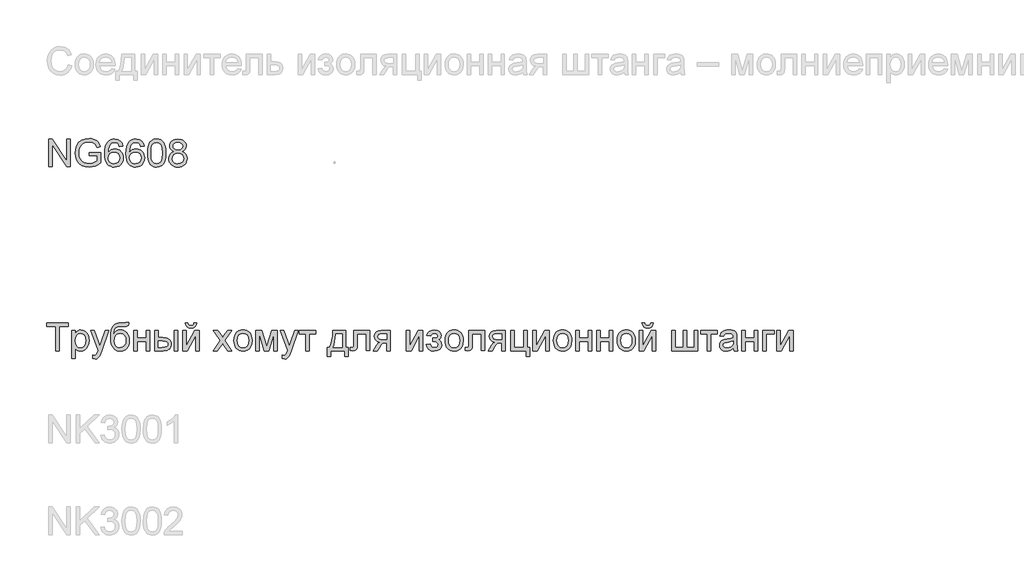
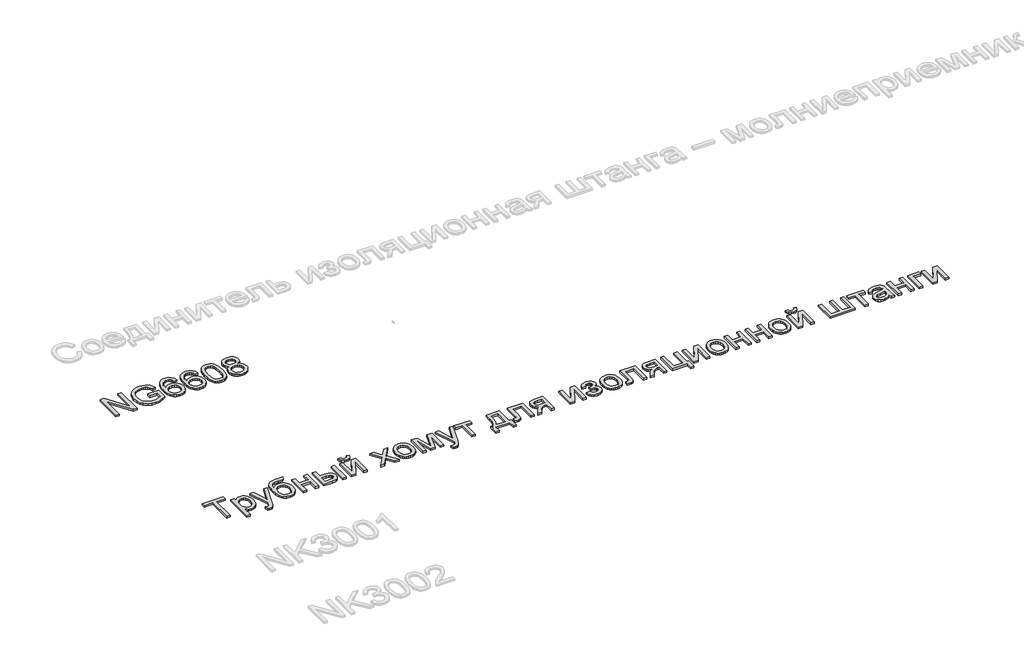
# One storey, part 20 of 124: 2 proxies.
"""IFC4 building model written with IfcOpenShell, lengths in millimetres."""

import ifcopenshell
import ifcopenshell.guid

model = None  # the IFC model being written
_history = None  # IfcOwnerHistory: only IFC2X3 demands one
_inside = {}  # id of a spatial element -> (the spatial element, [elements in it])
_under = {}  # id of a project, library or spatial element -> (it, [spatial elements below it])
_declared = {}  # id of a project -> (the project, [libraries it declares])
_typed = {}  # id of a type object -> (the type object, [elements of that type])
_made_of = {}  # id of a material, layer set ... -> (it, [elements and type objects made of it])


def new_model(schema):
    """Start an empty IFC model of exactly this schema.

    Asked for "IFC4X3", IfcOpenShell would pick the latest addendum, in which some entities
    have other attributes; the version numbers below select the first issue.
    IFC2X3 requires an IfcOwnerHistory on every rooted entity: one is made here for all.
    """
    global model, _history
    if schema == "IFC4X3":
        model = ifcopenshell.file(schema_version=(4, 3, 0, 0))
    else:
        model = ifcopenshell.file(schema=schema)
    _inside.clear()
    _under.clear()
    _declared.clear()
    _typed.clear()
    _made_of.clear()
    _history = None
    if model.schema == "IFC2X3":
        org = make("IfcOrganization", Name="unknown")
        user = make(
            "IfcPersonAndOrganization",
            ThePerson=make("IfcPerson", FamilyName="unknown"),
            TheOrganization=org,
        )
        app = make(
            "IfcApplication",
            ApplicationDeveloper=org,
            Version="unknown",
            ApplicationFullName="unknown",
            ApplicationIdentifier="unknown",
        )
        _history = make(
            "IfcOwnerHistory",
            OwningUser=user,
            OwningApplication=app,
            ChangeAction="ADDED",
            CreationDate=0,
        )
    return model


def make(cls, **values):
    """One entity of the class cls with the attributes given. An attribute that is None is left unset."""
    return model.create_entity(
        cls, **{name: value for name, value in values.items() if value is not None}
    )


def rooted(cls, **values):
    """An entity with a GlobalId (a new one), such as an element, a storey or a relation."""
    return make(cls, GlobalId=ifcopenshell.guid.new(), OwnerHistory=_history, **values)


def si_unit(unit_type, name, prefix=None):
    """IfcSIUnit, for example si_unit("LENGTHUNIT", "METRE", prefix="MILLI")."""
    return make("IfcSIUnit", UnitType=unit_type, Prefix=prefix, Name=name)


def assignment(units):
    """IfcUnitAssignment: the units of a project."""
    return None if units is None else make("IfcUnitAssignment", Units=units)


def point(xyz):
    """IfcCartesianPoint."""
    return None if xyz is None else make("IfcCartesianPoint", Coordinates=xyz)


def direction(xyz):
    """IfcDirection."""
    return None if xyz is None else make("IfcDirection", DirectionRatios=xyz)


def frame(location, z_axis=None, x_axis=None):
    """IfcAxis2Placement3D, a coordinate frame: its origin and axes. An axis left out is left unset."""
    return make(
        "IfcAxis2Placement3D",
        Location=point(location),
        Axis=direction(z_axis),
        RefDirection=direction(x_axis),
    )


def origin():
    """The frame at (0, 0, 0) with its axes left unset."""
    return frame((0.0, 0.0, 0.0))


def origin_with_axes():
    """The frame at (0, 0, 0) with the z axis (0, 0, 1) and the x axis (1, 0, 0) written out."""
    return frame((0.0, 0.0, 0.0), z_axis=(0.0, 0.0, 1.0), x_axis=(1.0, 0.0, 0.0))


def place(relative_to, where):
    """IfcLocalPlacement: puts the frame where relative to a parent placement (None: the world)."""
    return make(
        "IfcLocalPlacement", PlacementRelTo=relative_to, RelativePlacement=where
    )


def context(
    kind, dimensions, precision=None, world=None, true_north=None, identifier=None
):
    """IfcGeometricRepresentationContext, for example the 3D "Model" context."""
    return make(
        "IfcGeometricRepresentationContext",
        ContextIdentifier=identifier,
        ContextType=kind,
        CoordinateSpaceDimension=dimensions,
        Precision=precision,
        WorldCoordinateSystem=world,
        TrueNorth=true_north,
    )


def project(units=None, contexts=None):
    """IfcProject with its units and contexts."""
    return rooted(
        "IfcProject",
        Name="project",
        RepresentationContexts=contexts,
        UnitsInContext=assignment(units),
    )


def spatial(cls, under=None, at=None, **own):
    """A site, building, storey or space (cls), placed at a placement, below another one or the project."""
    s = rooted(cls, ObjectPlacement=at, **own)
    if under is not None:
        _under.setdefault(under.id(), (under, []))[1].append(s)
    return s


def polyline(points):
    """IfcPolyline through the points."""
    return make("IfcPolyline", Points=[point(p) for p in points])


def outline(outer, holes=None, kind="AREA"):
    """IfcArbitraryClosedProfileDef: a profile drawn as a closed curve; with holes, ...WithVoids."""
    if holes is None:
        return make("IfcArbitraryClosedProfileDef", ProfileType=kind, OuterCurve=outer)
    return make(
        "IfcArbitraryProfileDefWithVoids",
        ProfileType=kind,
        OuterCurve=outer,
        InnerCurves=holes,
    )


def extrude(swept, where, along, depth):
    """IfcExtrudedAreaSolid: the profile swept, set in the frame where, extruded along a direction by depth."""
    return make(
        "IfcExtrudedAreaSolid",
        SweptArea=swept,
        Position=where,
        ExtrudedDirection=direction(along),
        Depth=depth,
    )


def shape(context_of_items, identifier, shape_type, items):
    """IfcShapeRepresentation: the items that make up one representation, for example the "Body"."""
    return make(
        "IfcShapeRepresentation",
        ContextOfItems=context_of_items,
        RepresentationIdentifier=identifier,
        RepresentationType=shape_type,
        Items=items,
    )


def made_of(thing, what):
    """Note that an element or type object is made of a material, layer set ...; save() writes the relation."""
    if what is not None:
        _made_of.setdefault(what.id(), (what, []))[1].append(thing)
    return thing


def element(
    cls,
    number,
    at=None,
    inside=None,
    cuts=None,
    type_object=None,
    material=None,
    context=None,
    identifier="Body",
    shape_type=None,
    held_by="IfcProductDefinitionShape",
    body=None,
    shapes=None,
    **own,
):
    """One element of the class cls, such as IfcWall. Its Tag is "e" and its number.

    at: its placement. inside: the storey or other place that contains it. cuts: it is an
    opening in that element (IfcRelVoidsElement). A single representation is given by context,
    identifier, shape_type and body (its items); several are given by shapes. held_by: the class
    of the entity that holds the representations. save() writes the other relations.
    """
    e = rooted(cls, Tag="e%d" % number, ObjectPlacement=at, **own)
    if body is not None:
        shapes = [shape(context, identifier, shape_type, body)]
    if shapes is not None:
        e.Representation = make(held_by, Representations=shapes)
    if inside is not None:
        _inside.setdefault(inside.id(), (inside, []))[1].append(e)
    if cuts is not None:
        rooted(
            "IfcRelVoidsElement", RelatingBuildingElement=cuts, RelatedOpeningElement=e
        )
    if type_object is not None:
        _typed.setdefault(type_object.id(), (type_object, []))[1].append(e)
    return made_of(e, material)


def aggregate(whole, parts):
    """IfcRelAggregates: a whole, such as a stair, and the parts it consists of."""
    return rooted("IfcRelAggregates", RelatingObject=whole, RelatedObjects=parts)


def save(model, path):
    """Write the relations noted so far, then the file.

    IfcRelAggregates (storeys below a building ...), IfcRelContainedInSpatialStructure (elements
    in a storey), IfcRelDefinesByType, IfcRelAssociatesMaterial and IfcRelDeclares: one each for
    every whole, place, type object, material and project.
    """
    for whole, parts in _under.values():
        aggregate(whole, parts)
    for where, things in _inside.values():
        rooted(
            "IfcRelContainedInSpatialStructure",
            RelatedElements=things,
            RelatingStructure=where,
        )
    for kind, things in _typed.values():
        rooted("IfcRelDefinesByType", RelatedObjects=things, RelatingType=kind)
    for what, things in _made_of.values():
        rooted("IfcRelAssociatesMaterial", RelatedObjects=things, RelatingMaterial=what)
    for by, libraries in _declared.values():
        rooted("IfcRelDeclares", RelatingContext=by, RelatedDefinitions=libraries)
    model.write(path)


model = new_model("IFC4")

# Units and contexts
model_context = context("Model", 3, world=origin())
ifc_project = project(units=[si_unit("LENGTHUNIT", "METRE", prefix="MILLI")], contexts=[model_context])

# Site, building, storey
site = spatial("IfcSite", under=ifc_project)
building = spatial("IfcBuilding", under=site)
storey = spatial("IfcBuildingStorey", under=building, Name="Этаж 01", Elevation=0.0)

# Proxies
placement = place(None, origin())
element("IfcBuildingElementProxy", 1, Name="300", ObjectType="300", at=placement, inside=storey, context=model_context, shape_type="SweptSolid", body=[
    extrude(outline(polyline([(25399.8220677, -107548.8731539), (25399.8220677, -107247.5042234), (25440.1419344, -107247.5042234), (25597.5954283, -107486.2596383), (25597.5954283, -107247.5042234), (25635.2665446, -107247.5042234), (25635.2665446, -107548.8731539), (25594.9466779, -107548.8731539), (25437.493184, -107310.0441626), (25437.493184, -107548.8731539), (25399.8220677, -107548.8731539)])), origin_with_axes(), (0.0, 0.0, 1.0), 20.0),
    extrude(outline(polyline([(25842.4576843, -107431.1509154), (25842.4576843, -107393.4797991), (25964.8888123, -107393.4797991), (25964.8888123, -107506.125266), (25935.1363559, -107526.8186283), (25904.4458005, -107541.6626668), (25872.8907223, -107550.6021993), (25840.5446979, -107553.5820434), (25798.2842537, -107548.8455627), (25760.0889056, -107534.6361207), (25728.3590835, -107511.4503579), (25705.4952175, -107479.7849152), (25691.6720515, -107441.8010992), (25687.0643295, -107399.6602166), (25691.6536574, -107357.2158314), (25705.4216411, -107317.7328963), (25727.7980634, -107284.6143197), (25758.2127074, -107261.2630101), (25795.2584243, -107247.4122529), (25837.5280656, -107242.7953339), (25868.5589118, -107245.4716754), (25896.4627612, -107253.5007), (25919.9612236, -107266.3029934), (25937.7759092, -107283.2991416), (25950.9552817, -107305.3076819), (25960.5478047, -107333.1471519), (25925.8197444, -107342.932813), (25918.0666313, -107323.0763823), (25908.6396552, -107308.094388), (25896.1684556, -107296.8004108), (25879.282672, -107288.0080311), (25859.1503298, -107282.3518454), (25836.9394544, -107280.4664502), (25810.9393944, -107282.4989982), (25788.7101248, -107288.5966423), (25770.3344191, -107297.9960273), (25755.8950508, -107309.933798), (25736.5076697, -107338.9596874), (25727.6785018, -107367.3969657), (25724.7354458, -107398.1151123), (25728.27631, -107434.1399566), (25738.8989026, -107463.7820484), (25756.2813269, -107486.8298554), (25780.1016861, -107503.0718455), (25807.9779443, -107512.7011567), (25837.5280656, -107515.9109271), (25863.6200961, -107513.492103), (25889.0683331, -107506.2356306), (25911.1688439, -107496.2384374), (25927.217696, -107485.5974507), (25927.217696, -107431.1509154), (25842.4576843, -107431.1509154)])), origin_with_axes(), (0.0, 0.0, 1.0), 20.0),
    extrude(outline(polyline([(26205.0421787, -107327.5553456), (26167.3710624, -107332.2642351), (26161.3010095, -107313.5942239), (26153.097241, -107300.8471127), (26136.0091223, -107289.093283), (26115.3525483, -107285.1753397), (26097.8413653, -107287.4562081), (26081.360252, -107294.2988132), (26067.2059922, -107308.7105904), (26055.6453005, -107328.548627), (26047.8370051, -107356.6088262), (26044.9399344, -107395.6870911), (26060.0506874, -107378.0563465), (26078.1596786, -107365.6311321), (26098.2552326, -107358.2642951), (26119.3256739, -107355.8086828), (26137.425468, -107357.4871444), (26154.1273106, -107362.5225292), (26169.4312016, -107370.9148372), (26183.337141, -107382.6640685), (26194.8932342, -107397.0712471), (26203.1475865, -107413.4373974), (26208.1001978, -107431.7625192), (26209.7510683, -107452.0466128), (26206.6424654, -107479.0215601), (26197.3166568, -107504.0283387), (26182.5461947, -107525.2367357), (26163.1036313, -107540.8165382), (26139.8718833, -107550.3906671), (26113.7338675, -107553.5820434), (26091.276971, -107551.466722), (26070.9951767, -107545.1207575), (26052.8884848, -107534.5441502), (26036.9568951, -107519.7368999), (26023.9683614, -107500.0736072), (26014.6908374, -107474.9288729), (26009.1243229, -107444.3026968), (26007.2688181, -107408.1950789), (26009.3289573, -107367.7142639), (26015.5093748, -107333.165546), (26025.8100707, -107304.5489253), (26040.2310449, -107281.8644018), (26055.8614312, -107266.8318238), (26073.984218, -107256.094268), (26094.5994053, -107249.6517346), (26117.7069931, -107247.5042234), (26150.7611903, -107252.8201183), (26177.2302999, -107268.7678028), (26195.7715525, -107294.0964781), (26205.0421787, -107327.5553456)]), holes=[polyline([(26044.9399344, -107451.4580016), (26047.1196353, -107468.1506471), (26053.6587377, -107484.0891345), (26063.8122808, -107497.7927389), (26076.8353034, -107507.780735), (26092.5530617, -107513.8783791), (26110.7908116, -107515.9109271), (26135.6504374, -107511.6986783), (26155.1941684, -107499.0619317), (26167.8585061, -107479.196304), (26172.079952, -107453.2974115), (26167.9136884, -107428.4377857), (26155.4148976, -107409.4826659), (26135.5400728, -107397.4805158), (26109.2457072, -107393.4797991), (26084.4228696, -107397.4805158), (26063.665128, -107409.4826659), (26049.6212328, -107427.9779332), (26044.9399344, -107451.4580016)])]), origin_with_axes(), (0.0, 0.0, 1.0), 20.0),
    extrude(outline(polyline([(26435.7777661, -107327.5553456), (26398.1066498, -107332.2642351), (26392.0365969, -107313.5942239), (26383.8328284, -107300.8471127), (26366.7447097, -107289.093283), (26346.0881357, -107285.1753397), (26328.5769527, -107287.4562081), (26312.0958393, -107294.2988132), (26297.9415796, -107308.7105904), (26286.3808879, -107328.548627), (26278.5725925, -107356.6088262), (26275.6755218, -107395.6870911), (26290.7862748, -107378.0563465), (26308.895266, -107365.6311321), (26328.99082, -107358.2642951), (26350.0612612, -107355.8086828), (26368.1610554, -107357.4871444), (26384.862898, -107362.5225292), (26400.166789, -107370.9148372), (26414.0727284, -107382.6640685), (26425.6288216, -107397.0712471), (26433.8831738, -107413.4373974), (26438.8357852, -107431.7625192), (26440.4866556, -107452.0466128), (26437.3780528, -107479.0215601), (26428.0522442, -107504.0283387), (26413.2817821, -107525.2367357), (26393.8392187, -107540.8165382), (26370.6074707, -107550.3906671), (26344.4694549, -107553.5820434), (26322.0125584, -107551.466722), (26301.7307641, -107545.1207575), (26283.6240722, -107534.5441502), (26267.6924825, -107519.7368999), (26254.7039488, -107500.0736072), (26245.4264248, -107474.9288729), (26239.8599103, -107444.3026968), (26238.0044055, -107408.1950789), (26240.0645447, -107367.7142639), (26246.2449622, -107333.165546), (26256.5456581, -107304.5489253), (26270.9666323, -107281.8644018), (26286.5970185, -107266.8318238), (26304.7198053, -107256.094268), (26325.3349926, -107249.6517346), (26348.4425805, -107247.5042234), (26381.4967777, -107252.8201183), (26407.9658873, -107268.7678028), (26426.5071398, -107294.0964781), (26435.7777661, -107327.5553456)]), holes=[polyline([(26275.6755218, -107451.4580016), (26277.8552226, -107468.1506471), (26284.3943251, -107484.0891345), (26294.5478682, -107497.7927389), (26307.5708908, -107507.780735), (26323.288649, -107513.8783791), (26341.5263989, -107515.9109271), (26366.3860248, -107511.6986783), (26385.9297558, -107499.0619317), (26398.5940934, -107479.196304), (26402.8155393, -107453.2974115), (26398.6492757, -107428.4377857), (26386.150485, -107409.4826659), (26366.2756602, -107397.4805158), (26339.9812946, -107393.4797991), (26315.1584569, -107397.4805158), (26294.4007154, -107409.4826659), (26280.3568202, -107427.9779332), (26275.6755218, -107451.4580016)])]), origin_with_axes(), (0.0, 0.0, 1.0), 20.0),
    extrude(outline(polyline([(26473.4488824, -107400.6167098), (26476.2171944, -107352.3781832), (26484.5221305, -107313.9069236), (26498.2809171, -107284.6143197), (26517.4107808, -107263.9117604), (26542.0496775, -107251.6061077), (26572.3355627, -107247.5042234), (26595.5489166, -107249.9322446), (26616.3342493, -107257.2163081), (26633.7166736, -107269.0713054), (26646.7213021, -107285.2121279), (26656.5437514, -107305.50082), (26664.3796379, -107329.7994258), (26669.5115917, -107360.6555281), (26671.222243, -107400.6167098), (26668.4815222, -107448.579325), (26660.2593596, -107486.9586141), (26646.5833464, -107516.2788091), (26627.4810738, -107537.0641418), (26602.7869949, -107549.452568), (26572.3355627, -107553.5820434), (26551.5870182, -107551.7886187), (26533.1929184, -107546.4083445), (26517.1532634, -107537.4412209), (26503.4680532, -107524.8872478), (26490.334666, -107502.1935272), (26480.9536751, -107473.9171974), (26475.3250806, -107440.0582582), (26473.4488824, -107400.6167098)]), holes=[polyline([(26511.1199987, -107400.5431334), (26515.5345827, -107459.7997258), (26521.0528126, -107480.0677245), (26528.7783345, -107494.0955248), (26548.4968094, -107510.4570765), (26572.3355627, -107515.9109271), (26596.174316, -107510.4386824), (26615.892791, -107494.0219484), (26623.6183128, -107479.9711555), (26629.1365428, -107459.7077553), (26633.5511267, -107400.5431334), (26629.2836956, -107342.6201133), (26623.9494066, -107322.4187932), (26616.4814021, -107308.0575998), (26596.7997154, -107290.8959048), (26571.8941043, -107285.1753397), (26548.3128684, -107290.2153231), (26529.3669457, -107305.3352731), (26521.3839064, -107320.9702579), (26515.6817355, -107342.0498962), (26511.1199987, -107400.5431334)])]), origin_with_axes(), (0.0, 0.0, 1.0), 20.0),
    extrude(outline(polyline([(26759.0724635, -107382.8847977), (26738.9033331, -107372.9519838), (26724.7490733, -107359.4875028), (26716.388955, -107342.7672661), (26713.6022489, -107323.0671852), (26715.1197621, -107307.7035134), (26719.6723018, -107293.6182315), (26727.2598679, -107280.8113396), (26737.8824606, -107269.2828376), (26751.0296434, -107259.7546939), (26766.1909801, -107252.948877), (26802.5561153, -107247.5042234), (26839.1419797, -107253.0776357), (26854.4688633, -107260.0444009), (26867.8183812, -107269.7978723), (26878.6341119, -107281.5517021), (26886.3596338, -107294.5195424), (26890.9949469, -107308.7013933), (26892.5400513, -107324.0972548), (26889.7901334, -107343.1627392), (26881.5403797, -107359.5978674), (26867.6988196, -107372.9795749), (26848.1734827, -107382.8847977), (26871.3592455, -107394.8317655), (26888.235832, -107412.4257219), (26898.5273308, -107434.8205383), (26901.9578304, -107461.1700862), (26900.2563762, -107479.9596591), (26895.1520135, -107497.1857336), (26886.6447424, -107512.8483095), (26874.7345628, -107526.947387), (26860.0468741, -107538.6000492), (26843.2070758, -107546.9233793), (26824.2151678, -107551.9173774), (26803.0711501, -107553.5820434), (26781.9271324, -107551.9104796), (26762.9352244, -107546.8957882), (26746.0954261, -107538.5379691), (26731.4077374, -107526.8370224), (26719.4975578, -107512.6390766), (26710.9902867, -107496.7902604), (26705.885924, -107479.2905738), (26704.1844698, -107460.1400166), (26707.7529251, -107432.7695962), (26718.4582912, -107410.2552181), (26735.748745, -107393.3694345), (26759.0724635, -107382.8847977)]), holes=[polyline([(26751.2733652, -107324.1708312), (26754.6118943, -107340.6151564), (26764.6274816, -107353.7485436), (26781.0258215, -107362.3569823), (26803.5126085, -107365.2264619), (26825.4751636, -107362.3753764), (26841.6251832, -107353.82212), (26851.5579971, -107341.1301912), (26854.868935, -107325.8630884), (26851.4476325, -107310.0165715), (26841.1837248, -107296.9107754), (26824.812976, -107288.1091987), (26803.0711501, -107285.1753397), (26781.1913684, -107288.0448193), (26764.8482108, -107296.653258), (26754.6670766, -107309.2716104), (26751.2733652, -107324.1708312)]), polyline([(26741.8555861, -107458.8156415), (26748.1463682, -107487.1793433), (26756.8559745, -107499.3470403), (26770.4032289, -107508.4061344), (26786.6268249, -107514.0347289), (26803.3654557, -107515.9109271), (26829.0068308, -107511.9653927), (26848.2470591, -107500.1287895), (26860.2768003, -107482.2037393), (26864.2867141, -107459.9928639), (26860.1480416, -107437.4049093), (26847.7320243, -107419.084386), (26828.0503376, -107406.9442801), (26802.1146569, -107402.8975782), (26776.8319668, -107406.8890978), (26757.7848765, -107418.8636568), (26745.8379087, -107436.8346923), (26741.8555861, -107458.8156415)])]), origin_with_axes(), (0.0, 0.0, 1.0), 20.0),
])
element("IfcBuildingElementProxy", 2, Name="300", ObjectType="300", at=placement, inside=storey, context=model_context, shape_type="SweptSolid", body=[
    extrude(outline(polyline([(25475.1643003, -109548.8731539), (25475.1643003, -109285.1753397), (25376.27762, -109285.1753397), (25376.27762, -109247.5042234), (25611.7220969, -109247.5042234), (25611.7220969, -109285.1753397), (25512.8354166, -109285.1753397), (25512.8354166, -109548.8731539), (25475.1643003, -109548.8731539)])), origin_with_axes(), (0.0, 0.0, 1.0), 20.0),
    extrude(outline(polyline([(25649.3932132, -109633.6331656), (25649.3932132, -109327.5553456), (25687.0643295, -109327.5553456), (25687.0643295, -109364.4906979), (25699.3515882, -109346.2713421), (25713.1103748, -109333.2575165), (25729.1500298, -109325.4492212), (25748.2798935, -109322.846456), (25773.7557217, -109326.4884878), (25796.0309765, -109337.4145831), (25814.1675589, -109354.9625542), (25827.2273697, -109378.4702137), (25835.1184385, -109406.2269103), (25837.7487948, -109436.5219926), (25834.7781476, -109468.7392583), (25825.8662063, -109497.5536156), (25811.2980793, -109521.5027334), (25791.3588752, -109539.124281), (25768.1363242, -109549.9676028), (25743.7181568, -109553.5820434), (25726.4001119, -109551.1632193), (25710.939871, -109543.906747), (25697.7053162, -109532.9530605), (25687.0643295, -109519.4425943), (25687.0643295, -109633.6331656), (25649.3932132, -109633.6331656)]), holes=[polyline([(25687.0643295, -109439.9800833), (25691.1386226, -109473.7516505), (25703.3615019, -109497.3696746), (25721.3969167, -109511.275614), (25742.9088164, -109515.9109271), (25764.770204, -109511.1100671), (25783.2654713, -109496.707487), (25795.8746267, -109472.2249402), (25800.0776784, -109437.1841801), (25795.9757942, -109403.596554), (25783.6701415, -109379.6474361), (25765.6623178, -109365.3000383), (25744.4539208, -109360.5175724), (25723.1627503, -109365.6035409), (25704.4651479, -109380.8614467), (25691.4145341, -109405.813043), (25687.0643295, -109439.9800833)])]), origin_with_axes(), (0.0, 0.0, 1.0), 20.0),
    extrude(outline(polyline([(25880.1288006, -109633.6331656), (25875.4199111, -109597.3600008), (25894.5497748, -109600.6709388), (25912.4288398, -109596.5138723), (25923.3917232, -109584.9255894), (25933.6924191, -109557.187287), (25936.6354751, -109548.0638135), (25856.5843529, -109327.5553456), (25896.3156084, -109327.5553456), (25938.7691906, -109450.427932), (25953.5580468, -109499.5769665), (25968.346903, -109456.1668911), (26011.9777077, -109327.5553456), (26051.4146576, -109327.5553456), (25974.3801678, -109554.1706546), (25954.3673872, -109603.3196892), (25944.1218737, -109619.0098563), (25932.5151967, -109629.8807692), (25919.0323216, -109636.2267336), (25903.1582135, -109638.3420551), (25880.1288006, -109633.6331656)])), origin_with_axes(), (0.0, 0.0, 1.0), 20.0),
    extrude(outline(polyline([(26238.0044055, -109242.7953339), (26270.9666323, -109242.7953339), (26267.3981769, -109260.70199), (26261.2545476, -109272.1891053), (26252.7380794, -109278.9857252), (26242.0511075, -109282.820895), (26195.9187053, -109285.1753397), (26157.6129925, -109287.3458435), (26133.7834363, -109293.8573548), (26119.528009, -109305.1513321), (26109.944683, -109321.6692337), (26104.3068914, -109343.5398183), (26101.8880673, -109370.8918446), (26117.0356084, -109349.8489945), (26134.5192003, -109334.8394091), (26154.3572369, -109325.8446943), (26176.5681123, -109322.846456), (26197.0913291, -109324.7525446), (26215.7659389, -109330.4708104), (26232.5919417, -109340.0012533), (26247.5693374, -109353.3438734), (26259.8657931, -109369.9376507), (26268.6489757, -109389.221565), (26273.9188853, -109411.1956165), (26275.6755218, -109435.859805), (26272.1898399, -109471.82027), (26261.7327942, -109500.6806125), (26246.4932825, -109523.1122172), (26228.6602028, -109539.7864686), (26206.0722483, -109550.1331497), (26176.5681123, -109553.5820434), (26142.5666189, -109549.1398683), (26117.0815937, -109535.8133431), (26098.328809, -109515.5614392), (26084.5240371, -109490.3431285), (26076.025963, -109452.3685095), (26073.1932717, -109393.8476811), (26074.9797986, -109354.1831043), (26080.3393794, -109321.5680661), (26089.2720141, -109296.0025667), (26101.7777027, -109277.486606), (26117.9898024, -109264.3693137), (26138.0416704, -109254.9998191), (26161.9333067, -109249.3781223), (26189.6647113, -109247.5042234), (26231.6032588, -109246.6580948), (26238.0044055, -109242.7953339)]), holes=[polyline([(26238.0044055, -109434.6825826), (26233.9209154, -109405.0404908), (26221.6704449, -109381.3029051), (26201.9887582, -109365.7139055), (26175.6116191, -109360.5175724), (26148.11244, -109366.0082111), (26137.0253964, -109372.8715096), (26127.7133834, -109382.4801275), (26115.0766368, -109408.1306996), (26110.864388, -109441.1573057), (26115.5180952, -109473.1722363), (26129.4792169, -109496.6706988), (26150.2645497, -109511.10087), (26175.3908899, -109515.9109271), (26200.6459889, -109510.3467119), (26220.6403753, -109493.6540664), (26233.663398, -109467.7827651), (26238.0044055, -109434.6825826)])]), origin_with_axes(), (0.0, 0.0, 1.0), 20.0),
    extrude(outline(polyline([(26322.7644172, -109327.5553456), (26360.4355335, -109327.5553456), (26360.4355335, -109412.3153573), (26459.3222138, -109412.3153573), (26459.3222138, -109327.5553456), (26496.9933301, -109327.5553456), (26496.9933301, -109548.8731539), (26459.3222138, -109548.8731539), (26459.3222138, -109449.9864736), (26360.4355335, -109449.9864736), (26360.4355335, -109548.8731539), (26322.7644172, -109548.8731539), (26322.7644172, -109327.5553456)])), origin_with_axes(), (0.0, 0.0, 1.0), 20.0),
    extrude(outline(polyline([(26760.6911443, -109327.5553456), (26798.3622606, -109327.5553456), (26798.3622606, -109548.8731539), (26760.6911443, -109548.8731539), (26760.6911443, -109327.5553456)])), origin_with_axes(), (0.0, 0.0, 1.0), 20.0),
    extrude(outline(polyline([(26553.5000046, -109327.5553456), (26591.1711209, -109327.5553456), (26591.1711209, -109407.6064677), (26637.7449815, -109407.6064677), (26678.0004688, -109412.3245543), (26694.217167, -109418.2221626), (26707.8265015, -109426.4788141), (26718.5939477, -109436.8094004), (26726.2849807, -109448.9288128), (26730.8996004, -109462.8370515), (26732.437807, -109478.5341164), (26727.278262, -109505.4906696), (26711.7996271, -109528.234974), (26699.937732, -109537.2641777), (26684.9902267, -109543.7136089), (26645.8383854, -109548.8731539), (26553.5000046, -109548.8731539), (26553.5000046, -109327.5553456)]), holes=[polyline([(26591.1711209, -109511.2020376), (26629.8723068, -109511.2020376), (26659.8730835, -109509.2246719), (26679.8306817, -109503.2925747), (26691.0326885, -109493.1666228), (26694.7666907, -109478.6076928), (26691.9983787, -109466.3020401), (26683.6934427, -109455.4311271), (26665.9339393, -109447.8159698), (26634.8019255, -109445.277584), (26591.1711209, -109445.277584), (26591.1711209, -109511.2020376)])]), origin_with_axes(), (0.0, 0.0, 1.0), 20.0),
    extrude(outline(polyline([(26854.868935, -109327.5553456), (26892.5400513, -109327.5553456), (26892.5400513, -109496.339605), (26985.0991613, -109327.5553456), (27033.8067375, -109327.5553456), (27033.8067375, -109548.8731539), (26996.1356212, -109548.8731539), (26996.1356212, -109381.1189641), (26904.1651224, -109548.8731539), (26854.868935, -109548.8731539), (26854.868935, -109327.5553456)])), origin_with_axes(), (0.0, 0.0, 1.0), 20.0),
    extrude(outline(polyline([(26977.300063, -109247.5042234), (27005.5534002, -109247.5042234), (26999.4741503, -109271.6280853), (26987.2696651, -109289.4059827), (26969.4917677, -109300.3596691), (26946.692281, -109304.0108979), (26921.9522168, -109300.3872602), (26902.7671708, -109289.5163473), (26889.6521777, -109271.766041), (26883.1222722, -109247.5042234), (26911.3756095, -109247.5042234), (26915.348735, -109259.9110437), (26921.9706109, -109268.7310146), (26931.2780254, -109274.0009241), (26943.3077667, -109275.7575607), (26956.8826123, -109274.0561064), (26966.7050616, -109268.9517438), (26973.3269375, -109260.1869552), (26977.300063, -109247.5042234)])), origin_with_axes(), (0.0, 0.0, 1.0), 20.0),
    extrude(outline(polyline([(27184.4912027, -109548.8731539), (27264.9837832, -109437.6256385), (27189.2000922, -109327.5553456), (27234.523154, -109327.5553456), (27271.0906244, -109380.5303529), (27288.1603489, -109405.5463286), (27302.9492051, -109385.0920896), (27344.593447, -109327.5553456), (27389.9165088, -109327.5553456), (27310.306845, -109437.6256385), (27386.9734528, -109548.8731539), (27341.650391, -109548.8731539), (27295.5179888, -109481.9922072), (27287.056703, -109469.7785249), (27229.8142645, -109548.8731539), (27184.4912027, -109548.8731539)])), origin_with_axes(), (0.0, 0.0, 1.0), 20.0),
    extrude(outline(polyline([(27410.5179005, -109438.2142497), (27412.5550471, -109409.5516438), (27418.6664867, -109384.8529663), (27428.8522195, -109364.1182174), (27443.1122453, -109347.3473969), (27457.4688402, -109336.6282353), (27473.3153571, -109328.9716913), (27490.6517961, -109324.3777649), (27509.4781572, -109322.846456), (27530.2611907, -109324.7111579), (27549.0530629, -109330.3052635), (27565.8537737, -109339.6287728), (27580.6633233, -109352.6816859), (27592.7505461, -109369.0225442), (27601.3842767, -109388.2098895), (27606.564515, -109410.2437218), (27608.2912611, -109435.124041), (27605.2378406, -109473.1814334), (27596.0775789, -109502.1521405), (27581.0771905, -109523.8479812), (27560.50339, -109540.0807742), (27536.0668284, -109550.2067261), (27509.4781572, -109553.5820434), (27488.3916211, -109551.7242393), (27469.425005, -109546.1508271), (27452.5783089, -109536.8618067), (27437.8515328, -109523.8571782), (27425.8930687, -109507.3576707), (27417.3513086, -109487.5840135), (27412.2262525, -109464.5362065), (27410.5179005, -109438.2142497)]), holes=[polyline([(27448.1890168, -109438.1406733), (27452.5484185, -109472.2341372), (27465.6266234, -109496.523546), (27485.3083102, -109511.0640818), (27509.4781572, -109515.9109271), (27533.5376397, -109511.0364907), (27553.1825383, -109496.4131814), (27566.2607432, -109471.8018759), (27570.6201448, -109436.963451), (27566.233152, -109403.8632684), (27553.0721737, -109379.9049535), (27533.399684, -109365.3644176), (27509.4781572, -109360.5175724), (27485.3083102, -109365.3460235), (27465.6266234, -109379.8313771), (27452.5484185, -109404.0656035), (27448.1890168, -109438.1406733)])]), origin_with_axes(), (0.0, 0.0, 1.0), 20.0),
    extrude(outline(polyline([(27650.671267, -109327.5553456), (27715.4920745, -109327.5553456), (27765.4504495, -109504.7273145), (27819.3083736, -109327.5553456), (27881.4068544, -109327.5553456), (27881.4068544, -109548.8731539), (27843.7357381, -109548.8731539), (27843.7357381, -109370.6711154), (27789.5835084, -109548.8731539), (27740.1401682, -109548.8731539), (27688.3423833, -109362.1362531), (27688.3423833, -109548.8731539), (27650.671267, -109548.8731539), (27650.671267, -109327.5553456)])), origin_with_axes(), (0.0, 0.0, 1.0), 20.0),
    extrude(outline(polyline([(27937.9135288, -109633.6331656), (27933.2046393, -109597.3600008), (27952.334503, -109600.6709388), (27970.213568, -109596.5138723), (27981.1764515, -109584.9255894), (27991.4771473, -109557.187287), (27994.4202033, -109548.0638135), (27914.3690811, -109327.5553456), (27954.1003366, -109327.5553456), (27996.5539188, -109450.427932), (28011.3427751, -109499.5769665), (28026.1316313, -109456.1668911), (28069.7624359, -109327.5553456), (28109.1993858, -109327.5553456), (28032.164896, -109554.1706546), (28012.1521154, -109603.3196892), (28001.9066019, -109619.0098563), (27990.2999249, -109629.8807692), (27976.8170498, -109636.2267336), (27960.9429417, -109638.3420551), (27937.9135288, -109633.6331656)])), origin_with_axes(), (0.0, 0.0, 1.0), 20.0),
    extrude(outline(polyline([(28121.5602208, -109327.5553456), (28300.4980233, -109327.5553456), (28300.4980233, -109365.2264619), (28229.8646802, -109365.2264619), (28229.8646802, -109548.8731539), (28192.1935639, -109548.8731539), (28192.1935639, -109365.2264619), (28121.5602208, -109365.2264619), (28121.5602208, -109327.5553456)])), origin_with_axes(), (0.0, 0.0, 1.0), 20.0),
    extrude(outline(polyline([(28484.1447153, -109327.5553456), (28625.4114014, -109327.5553456), (28625.4114014, -109511.2020376), (28653.6647386, -109511.2020376), (28653.6647386, -109610.0887179), (28615.9936223, -109610.0887179), (28615.9936223, -109548.8731539), (28460.6002676, -109548.8731539), (28460.6002676, -109610.0887179), (28422.9291513, -109610.0887179), (28422.9291513, -109511.2020376), (28446.4735989, -109511.2020376), (28463.5893088, -109480.2723588), (28475.5730648, -109439.3546839), (28482.4248669, -109388.4490128), (28484.1447153, -109327.5553456)]), holes=[polyline([(28517.106942, -109365.2264619), (28514.0167333, -109411.349667), (28508.2777741, -109451.0533314), (28499.8900646, -109484.3374549), (28488.8536048, -109511.2020376), (28587.7402851, -109511.2020376), (28587.7402851, -109365.2264619), (28517.106942, -109365.2264619)])]), origin_with_axes(), (0.0, 0.0, 1.0), 20.0),
    extrude(outline(polyline([(28714.8803026, -109327.5553456), (28884.400326, -109327.5553456), (28884.400326, -109548.6524247), (28846.7292097, -109548.6524247), (28846.7292097, -109365.2264619), (28752.5514189, -109365.2264619), (28752.5514189, -109470.8085945), (28750.0130332, -109519.5161707), (28745.2581584, -109530.5434335), (28736.0703056, -109540.0807742), (28722.1275779, -109546.675059), (28703.1080788, -109548.8731539), (28672.5002968, -109546.9601675), (28672.5002968, -109511.2020376), (28689.3492922, -109511.2020376), (28706.3822285, -109508.884381), (28713.1880455, -109501.5267411), (28714.8803026, -109468.6748789), (28714.8803026, -109327.5553456)])), origin_with_axes(), (0.0, 0.0, 1.0), 20.0),
    extrude(outline(polyline([(29110.4270238, -109327.5553456), (29110.4270238, -109548.8731539), (29072.7559075, -109548.8731539), (29072.7559075, -109464.1131422), (29052.2280922, -109464.1131422), (29024.2690606, -109468.8956081), (29013.103842, -109479.3250627), (28998.0022861, -109501.0484945), (28967.9831153, -109548.8731539), (28924.4258871, -109548.8731539), (28962.2441562, -109488.3933539), (28978.9459988, -109466.6883162), (28994.3234662, -109457.0498079), (28968.5717265, -109449.1587391), (28950.4719323, -109434.1675478), (28939.7665663, -109414.2283437), (28936.1981109, -109391.4932363), (28941.0725474, -109365.7047085), (28955.6958567, -109345.2872578), (28979.5530041, -109331.9883236), (29012.1289547, -109327.5553456), (29110.4270238, -109327.5553456)]), holes=[polyline([(29072.7559075, -109365.2264619), (29023.0918382, -109365.2264619), (28997.4412661, -109367.4061627), (28982.8823361, -109373.9452652), (28976.1225045, -109383.4090295), (28973.8692272, -109394.3627159), (28977.1893622, -109408.7193108), (28987.1497673, -109418.6797158), (29005.5530641, -109424.5014484), (29034.2018744, -109426.4420259), (29072.7559075, -109426.4420259), (29072.7559075, -109365.2264619)])]), origin_with_axes(), (0.0, 0.0, 1.0), 20.0),
    extrude(outline(polyline([(29284.6559368, -109327.5553456), (29322.3270531, -109327.5553456), (29322.3270531, -109496.339605), (29414.8861631, -109327.5553456), (29463.5937392, -109327.5553456), (29463.5937392, -109548.8731539), (29425.9226229, -109548.8731539), (29425.9226229, -109381.1189641), (29333.9521241, -109548.8731539), (29284.6559368, -109548.8731539), (29284.6559368, -109327.5553456)])), origin_with_axes(), (0.0, 0.0, 1.0), 20.0),
    extrude(outline(polyline([(29571.8981986, -109449.9864736), (29571.8981986, -109412.3153573), (29601.6230638, -109410.8438293), (29616.6326492, -109403.0079428), (29621.9301499, -109395.6594999), (29623.6959835, -109386.637194), (29621.3323417, -109375.9226309), (29614.2414162, -109367.6176949), (29603.4164885, -109362.292603), (29589.85084, -109360.5175724), (29576.1380386, -109362.2834059), (29564.6509233, -109367.5809067), (29555.3894941, -109376.4100745), (29548.3537509, -109388.7709096), (29505.9737451, -109384.06202), (29517.21254, -109357.2802108), (29534.3006587, -109338.150347), (29557.2381011, -109326.6724288), (29586.0248672, -109322.846456), (29617.515566, -109327.5093603), (29641.3543193, -109341.4980732), (29656.3639047, -109361.9615092), (29661.3670998, -109386.0485828), (29659.5874707, -109398.4094179), (29654.2485832, -109409.4458777), (29645.3504375, -109419.1579624), (29632.8930334, -109427.5456719), (29647.4335693, -109438.0119146), (29657.7986445, -109451.0165432), (29664.0066531, -109466.5963457), (29666.0759894, -109484.7881103), (29660.8244739, -109512.5172157), (29645.0699274, -109534.4889679), (29619.8792078, -109548.8087745), (29586.3191728, -109553.5820434), (29553.4949018, -109549.1674595), (29528.3777586, -109535.9237077), (29510.9677431, -109513.8507879), (29501.2648555, -109482.9487003), (29543.6448614, -109478.2398108), (29549.9908258, -109494.1691012), (29560.6410095, -109506.0516896), (29574.363008, -109513.4461178), (29589.9244164, -109515.9109271), (29605.0811546, -109513.5472853), (29617.4419896, -109506.4563598), (29625.6641522, -109495.6866144), (29628.4048731, -109482.2865128), (29626.7034188, -109471.6731172), (29621.5990561, -109462.4944614), (29607.1045055, -109451.89946), (29579.2558385, -109449.7657444), (29571.8981986, -109449.9864736)])), origin_with_axes(), (0.0, 0.0, 1.0), 20.0),
    extrude(outline(polyline([(29703.7471057, -109438.2142497), (29705.7842522, -109409.5516438), (29711.8956919, -109384.8529663), (29722.0814246, -109364.1182174), (29736.3414504, -109347.3473969), (29750.6980453, -109336.6282353), (29766.5445622, -109328.9716913), (29783.8810013, -109324.3777649), (29802.7073624, -109322.846456), (29823.4903958, -109324.7111579), (29842.282268, -109330.3052635), (29859.0829789, -109339.6287728), (29873.8925284, -109352.6816859), (29885.9797512, -109369.0225442), (29894.6134818, -109388.2098895), (29899.7937202, -109410.2437218), (29901.5204663, -109435.124041), (29898.4670457, -109473.1814334), (29889.306784, -109502.1521405), (29874.3063957, -109523.8479812), (29853.7325951, -109540.0807742), (29829.2960336, -109550.2067261), (29802.7073624, -109553.5820434), (29781.6208263, -109551.7242393), (29762.6542101, -109546.1508271), (29745.807514, -109536.8618067), (29731.0807379, -109523.8571782), (29719.1222738, -109507.3576707), (29710.5805137, -109487.5840135), (29705.4554577, -109464.5362065), (29703.7471057, -109438.2142497)]), holes=[polyline([(29741.418222, -109438.1406733), (29745.7776236, -109472.2341372), (29758.8558285, -109496.523546), (29778.5375153, -109511.0640818), (29802.7073624, -109515.9109271), (29826.7668449, -109511.0364907), (29846.4117434, -109496.4131814), (29859.4899483, -109471.8018759), (29863.84935, -109436.963451), (29859.4623572, -109403.8632684), (29846.3013788, -109379.9049535), (29826.6288891, -109365.3644176), (29802.7073624, -109360.5175724), (29778.5375153, -109365.3460235), (29758.8558285, -109379.8313771), (29745.7776236, -109404.0656035), (29741.418222, -109438.1406733)])]), origin_with_axes(), (0.0, 0.0, 1.0), 20.0),
    extrude(outline(polyline([(29962.7360303, -109327.5553456), (30132.2560536, -109327.5553456), (30132.2560536, -109548.6524247), (30094.5849373, -109548.6524247), (30094.5849373, -109365.2264619), (30000.4071466, -109365.2264619), (30000.4071466, -109470.8085945), (29997.8687608, -109519.5161707), (29993.113886, -109530.5434335), (29983.9260332, -109540.0807742), (29969.9833056, -109546.675059), (29950.9638064, -109548.8731539), (29920.3560244, -109546.9601675), (29920.3560244, -109511.2020376), (29937.2050198, -109511.2020376), (29954.2379562, -109508.884381), (29961.0437731, -109501.5267411), (29962.7360303, -109468.6748789), (29962.7360303, -109327.5553456)])), origin_with_axes(), (0.0, 0.0, 1.0), 20.0),
    extrude(outline(polyline([(30358.2827515, -109327.5553456), (30358.2827515, -109548.8731539), (30320.6116352, -109548.8731539), (30320.6116352, -109464.1131422), (30300.0838198, -109464.1131422), (30272.1247882, -109468.8956081), (30260.9595697, -109479.3250627), (30245.8580138, -109501.0484945), (30215.838843, -109548.8731539), (30172.2816147, -109548.8731539), (30210.0998838, -109488.3933539), (30226.8017264, -109466.6883162), (30242.1791938, -109457.0498079), (30216.4274541, -109449.1587391), (30198.32766, -109434.1675478), (30187.6222939, -109414.2283437), (30184.0538386, -109391.4932363), (30188.928275, -109365.7047085), (30203.5515843, -109345.2872578), (30227.4087317, -109331.9883236), (30259.9846824, -109327.5553456), (30358.2827515, -109327.5553456)]), holes=[polyline([(30320.6116352, -109365.2264619), (30270.9475658, -109365.2264619), (30245.2969937, -109367.4061627), (30230.7380638, -109373.9452652), (30223.9782321, -109383.4090295), (30221.7249549, -109394.3627159), (30225.0450899, -109408.7193108), (30235.0054949, -109418.6797158), (30253.4087917, -109424.5014484), (30282.0576021, -109426.4420259), (30320.6116352, -109426.4420259), (30320.6116352, -109365.2264619)])]), origin_with_axes(), (0.0, 0.0, 1.0), 20.0),
    extrude(outline(polyline([(30414.7894259, -109327.5553456), (30452.4605422, -109327.5553456), (30452.4605422, -109511.2020376), (30560.7650016, -109511.2020376), (30560.7650016, -109327.5553456), (30598.4361179, -109327.5553456), (30598.4361179, -109511.2020376), (30621.9805656, -109511.2020376), (30621.9805656, -109610.0887179), (30584.3094493, -109610.0887179), (30584.3094493, -109548.8731539), (30414.7894259, -109548.8731539), (30414.7894259, -109327.5553456)])), origin_with_axes(), (0.0, 0.0, 1.0), 20.0),
    extrude(outline(polyline([(30654.9427924, -109327.5553456), (30692.6139087, -109327.5553456), (30692.6139087, -109496.339605), (30785.1730187, -109327.5553456), (30833.8805948, -109327.5553456), (30833.8805948, -109548.8731539), (30796.2094785, -109548.8731539), (30796.2094785, -109381.1189641), (30704.2389797, -109548.8731539), (30654.9427924, -109548.8731539), (30654.9427924, -109327.5553456)])), origin_with_axes(), (0.0, 0.0, 1.0), 20.0),
    extrude(outline(polyline([(30880.9694902, -109438.2142497), (30883.0066368, -109409.5516438), (30889.1180764, -109384.8529663), (30899.3038092, -109364.1182174), (30913.563835, -109347.3473969), (30927.9204299, -109336.6282353), (30943.7669468, -109328.9716913), (30961.1033858, -109324.3777649), (30979.9297469, -109322.846456), (31000.7127804, -109324.7111579), (31019.5046526, -109330.3052635), (31036.3053634, -109339.6287728), (31051.114913, -109352.6816859), (31063.2021358, -109369.0225442), (31071.8358664, -109388.2098895), (31077.0161047, -109410.2437218), (31078.7428508, -109435.124041), (31075.6894303, -109473.1814334), (31066.5291686, -109502.1521405), (31051.5287802, -109523.8479812), (31030.9549797, -109540.0807742), (31006.5184181, -109550.2067261), (30979.9297469, -109553.5820434), (30958.8432108, -109551.7242393), (30939.8765947, -109546.1508271), (30923.0298986, -109536.8618067), (30908.3031225, -109523.8571782), (30896.3446584, -109507.3576707), (30887.8028983, -109487.5840135), (30882.6778422, -109464.5362065), (30880.9694902, -109438.2142497)]), holes=[polyline([(30918.6406065, -109438.1406733), (30923.0000082, -109472.2341372), (30936.0782131, -109496.523546), (30955.7598999, -109511.0640818), (30979.9297469, -109515.9109271), (31003.9892294, -109511.0364907), (31023.634128, -109496.4131814), (31036.7123329, -109471.8018759), (31041.0717345, -109436.963451), (31036.6847417, -109403.8632684), (31023.5237634, -109379.9049535), (31003.8512737, -109365.3644176), (30979.9297469, -109360.5175724), (30955.7598999, -109365.3460235), (30936.0782131, -109379.8313771), (30923.0000082, -109404.0656035), (30918.6406065, -109438.1406733)])]), origin_with_axes(), (0.0, 0.0, 1.0), 20.0),
    extrude(outline(polyline([(31121.1228567, -109327.5553456), (31158.793973, -109327.5553456), (31158.793973, -109412.3153573), (31257.6806533, -109412.3153573), (31257.6806533, -109327.5553456), (31295.3517696, -109327.5553456), (31295.3517696, -109548.8731539), (31257.6806533, -109548.8731539), (31257.6806533, -109449.9864736), (31158.793973, -109449.9864736), (31158.793973, -109548.8731539), (31121.1228567, -109548.8731539), (31121.1228567, -109327.5553456)])), origin_with_axes(), (0.0, 0.0, 1.0), 20.0),
    extrude(outline(polyline([(31351.8584441, -109327.5553456), (31389.5295604, -109327.5553456), (31389.5295604, -109412.3153573), (31488.4162407, -109412.3153573), (31488.4162407, -109327.5553456), (31526.087357, -109327.5553456), (31526.087357, -109548.8731539), (31488.4162407, -109548.8731539), (31488.4162407, -109449.9864736), (31389.5295604, -109449.9864736), (31389.5295604, -109548.8731539), (31351.8584441, -109548.8731539), (31351.8584441, -109327.5553456)])), origin_with_axes(), (0.0, 0.0, 1.0), 20.0),
    extrude(outline(polyline([(31573.1762524, -109438.2142497), (31575.2133989, -109409.5516438), (31581.3248385, -109384.8529663), (31591.5105713, -109364.1182174), (31605.7705971, -109347.3473969), (31620.127192, -109336.6282353), (31635.9737089, -109328.9716913), (31653.310148, -109324.3777649), (31672.1365091, -109322.846456), (31692.9195425, -109324.7111579), (31711.7114147, -109330.3052635), (31728.5121256, -109339.6287728), (31743.3216751, -109352.6816859), (31755.4088979, -109369.0225442), (31764.0426285, -109388.2098895), (31769.2228668, -109410.2437218), (31770.949613, -109435.124041), (31767.8961924, -109473.1814334), (31758.7359307, -109502.1521405), (31743.7355424, -109523.8479812), (31723.1617418, -109540.0807742), (31698.7251803, -109550.2067261), (31672.1365091, -109553.5820434), (31651.0499729, -109551.7242393), (31632.0833568, -109546.1508271), (31615.2366607, -109536.8618067), (31600.5098846, -109523.8571782), (31588.5514205, -109507.3576707), (31580.0096604, -109487.5840135), (31574.8846044, -109464.5362065), (31573.1762524, -109438.2142497)]), holes=[polyline([(31610.8473687, -109438.1406733), (31615.2067703, -109472.2341372), (31628.2849752, -109496.523546), (31647.966662, -109511.0640818), (31672.1365091, -109515.9109271), (31696.1959915, -109511.0364907), (31715.8408901, -109496.4131814), (31728.919095, -109471.8018759), (31733.2784967, -109436.963451), (31728.8915039, -109403.8632684), (31715.7305255, -109379.9049535), (31696.0580358, -109365.3644176), (31672.1365091, -109360.5175724), (31647.966662, -109365.3460235), (31628.2849752, -109379.8313771), (31615.2067703, -109404.0656035), (31610.8473687, -109438.1406733)])]), origin_with_axes(), (0.0, 0.0, 1.0), 20.0),
    extrude(outline(polyline([(31813.3296188, -109327.5553456), (31851.0007351, -109327.5553456), (31851.0007351, -109496.339605), (31943.5598451, -109327.5553456), (31992.2674213, -109327.5553456), (31992.2674213, -109548.8731539), (31954.596305, -109548.8731539), (31954.596305, -109381.1189641), (31862.6258062, -109548.8731539), (31813.3296188, -109548.8731539), (31813.3296188, -109327.5553456)])), origin_with_axes(), (0.0, 0.0, 1.0), 20.0),
    extrude(outline(polyline([(31935.7607468, -109247.5042234), (31964.014084, -109247.5042234), (31957.9348341, -109271.6280853), (31945.7303489, -109289.4059827), (31927.9524515, -109300.3596691), (31905.1529648, -109304.0108979), (31880.4129006, -109300.3872602), (31861.2278546, -109289.5163473), (31848.1128615, -109271.766041), (31841.582956, -109247.5042234), (31869.8362933, -109247.5042234), (31873.8094188, -109259.9110437), (31880.4312947, -109268.7310146), (31889.7387092, -109274.0009241), (31901.7684504, -109275.7575607), (31915.3432961, -109274.0561064), (31925.1657453, -109268.9517438), (31931.7876213, -109260.1869552), (31935.7607468, -109247.5042234)])), origin_with_axes(), (0.0, 0.0, 1.0), 20.0),
    extrude(outline(polyline([(32166.4963342, -109327.5553456), (32204.1674505, -109327.5553456), (32204.1674505, -109511.2020376), (32288.9274622, -109511.2020376), (32288.9274622, -109327.5553456), (32326.5985785, -109327.5553456), (32326.5985785, -109511.2020376), (32411.3585902, -109511.2020376), (32411.3585902, -109327.5553456), (32449.0297065, -109327.5553456), (32449.0297065, -109548.8731539), (32166.4963342, -109548.8731539), (32166.4963342, -109327.5553456)])), origin_with_axes(), (0.0, 0.0, 1.0), 20.0),
    extrude(outline(polyline([(32481.9919332, -109327.5553456), (32660.9297357, -109327.5553456), (32660.9297357, -109365.2264619), (32590.2963926, -109365.2264619), (32590.2963926, -109548.8731539), (32552.6252763, -109548.8731539), (32552.6252763, -109365.2264619), (32481.9919332, -109365.2264619), (32481.9919332, -109327.5553456)])), origin_with_axes(), (0.0, 0.0, 1.0), 20.0),
    extrude(outline(polyline([(32835.1586486, -109520.6198167), (32817.160022, -109536.0524664), (32798.6279665, -109546.1508271), (32779.1394178, -109551.7242393), (32758.2713116, -109553.5820434), (32726.7898099, -109549.1122772), (32703.5672589, -109535.7029785), (32689.2474523, -109515.34071), (32684.4741834, -109490.0120347), (32686.2768052, -109474.395444), (32691.6846705, -109460.213593), (32700.0263947, -109448.0734872), (32710.6305932, -109438.5821317), (32737.0077323, -109426.2212967), (32769.6020771, -109420.555914), (32808.119322, -109414.5962256), (32834.9379194, -109407.6064677), (32835.1586486, -109399.2187582), (32832.5650805, -109382.4065511), (32824.7843763, -109371.4068794), (32807.383558, -109363.2398991), (32783.1401345, -109360.5175724), (32760.6993328, -109362.3293912), (32745.0275598, -109367.7648477), (32734.3405878, -109377.8172232), (32726.8541892, -109393.4797991), (32689.1830729, -109388.7709096), (32695.7221754, -109368.1695179), (32705.4802453, -109351.9827101), (32719.3677906, -109339.6034809), (32738.2953193, -109330.4248251), (32761.4442938, -109324.7410483), (32787.9961768, -109322.846456), (32813.4628079, -109324.5203191), (32833.6503324, -109329.5419084), (32848.87145, -109337.0926863), (32859.4388603, -109346.3541155), (32866.4470123, -109357.8044426), (32870.9903549, -109371.9219142), (32872.8297649, -109404.884141), (32872.8297649, -109451.7523072), (32874.7427513, -109517.1985141), (32882.247544, -109548.8731539), (32844.5764277, -109548.8731539), (32835.1586486, -109520.6198167)]), holes=[polyline([(32835.1586486, -109445.277584), (32774.384543, -109456.8290787), (32741.9741392, -109462.9359198), (32727.2956476, -109472.8687337), (32722.1452997, -109487.3632843), (32724.9503999, -109498.565291), (32733.3657005, -109507.7439468), (32747.2072606, -109513.869182), (32766.2911391, -109515.9109271), (32786.5246488, -109513.6576499), (32804.4037138, -109506.8978182), (32818.8982644, -109496.9374132), (32828.9782311, -109485.0824159), (32833.4479973, -109472.8687337), (32834.9379194, -109455.9461619), (32835.1586486, -109445.277584)])]), origin_with_axes(), (0.0, 0.0, 1.0), 20.0),
    extrude(outline(polyline([(32924.6275498, -109327.5553456), (32962.2986661, -109327.5553456), (32962.2986661, -109412.3153573), (33061.1853464, -109412.3153573), (33061.1853464, -109327.5553456), (33098.8564628, -109327.5553456), (33098.8564628, -109548.8731539), (33061.1853464, -109548.8731539), (33061.1853464, -109449.9864736), (32962.2986661, -109449.9864736), (32962.2986661, -109548.8731539), (32924.6275498, -109548.8731539), (32924.6275498, -109327.5553456)])), origin_with_axes(), (0.0, 0.0, 1.0), 20.0),
    extrude(outline(polyline([(33155.3631372, -109327.5553456), (33277.7942652, -109327.5553456), (33277.7942652, -109365.2264619), (33193.0342535, -109365.2264619), (33193.0342535, -109548.8731539), (33155.3631372, -109548.8731539), (33155.3631372, -109327.5553456)])), origin_with_axes(), (0.0, 0.0, 1.0), 20.0),
    extrude(outline(polyline([(33306.0476024, -109327.5553456), (33343.7187187, -109327.5553456), (33343.7187187, -109496.339605), (33436.2778287, -109327.5553456), (33484.9854049, -109327.5553456), (33484.9854049, -109548.8731539), (33447.3142886, -109548.8731539), (33447.3142886, -109381.1189641), (33355.3437898, -109548.8731539), (33306.0476024, -109548.8731539), (33306.0476024, -109327.5553456)])), origin_with_axes(), (0.0, 0.0, 1.0), 20.0),
])

save(model, "model.ifc")
